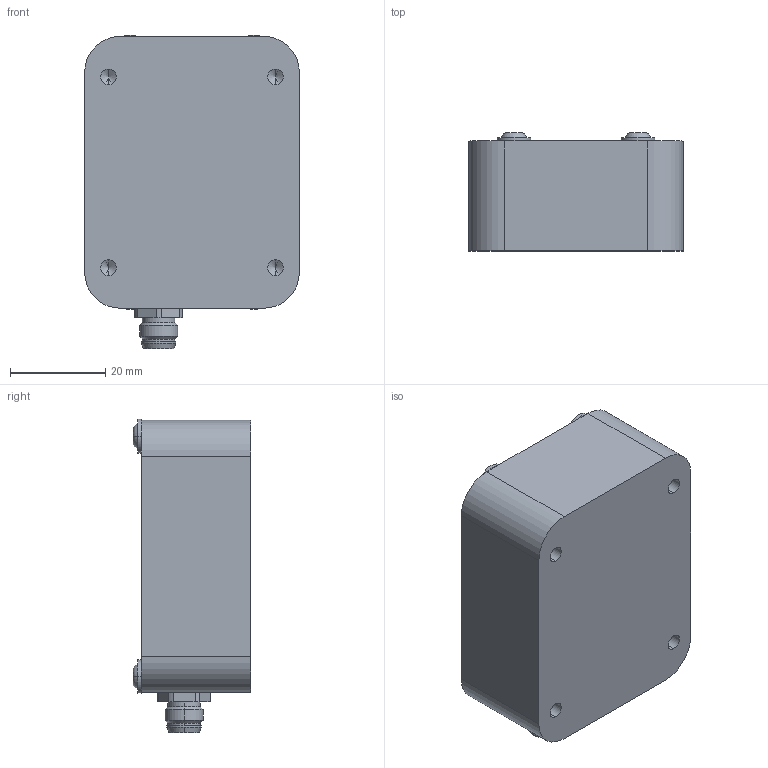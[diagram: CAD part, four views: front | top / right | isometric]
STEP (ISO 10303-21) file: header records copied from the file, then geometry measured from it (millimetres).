
FILE_DESCRIPTION (( 'STEP AP203' ), '1' );
FILE_NAME ('10581104_0303 (Part) (2018-03-05).STEP', '2018-03-05T19:05:26', ( '' ), ( '' ), 'SwSTEP 2.0', 'SolidWorks 2018', '' );
FILE_SCHEMA (( 'CONFIG_CONTROL_DESIGN' ));
Length unit declared in the file: millimetre
Products named in the file (1): 10581104_0303 (Part) (2018-03-05)
Bounding box: 45 x 24.7 x 65.75 mm (x, y, z)
Volume: 40486.9 mm3; surface area: 16239.1 mm2
Topology: 1 solids, 7 shells, 263 faces, 634 edges, 368 vertices
Faces by surface type: plane 110, cylinder 94, cone 48, torus 8, bspline 3
Entity records: 7480 total; most frequent: DIRECTION 1382, CARTESIAN_POINT 1291, ORIENTED_EDGE 1192, EDGE_CURVE 596, AXIS2_PLACEMENT_3D 531, VERTEX_POINT 368, VECTOR 320, LINE 320
